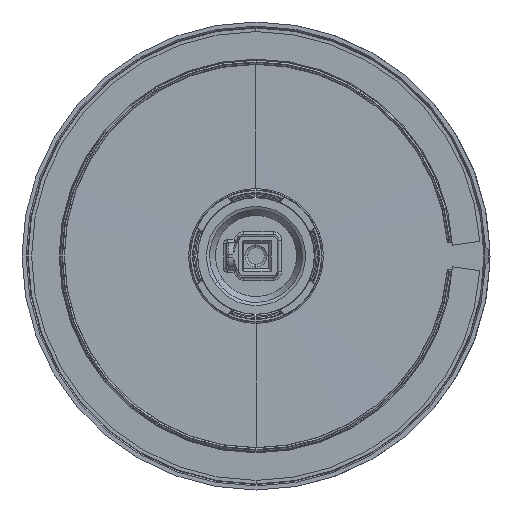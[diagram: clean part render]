
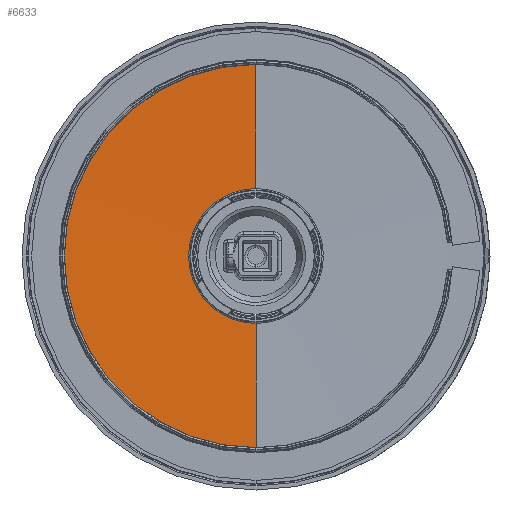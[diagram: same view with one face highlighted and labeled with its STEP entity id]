
A CAD part, left-side view. The second image highlights one B-rep face of the part: STEP entity #6633.
In plain terms, the highlighted spherical face has radius 3997 mm.
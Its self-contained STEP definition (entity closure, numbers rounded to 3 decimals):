
#203 = VERTEX_POINT ( 'NONE', #1111 ) ;
#1111 = CARTESIAN_POINT ( 'NONE',  ( -24.503, 0., 3.075 ) ) ;
#1152 = VERTEX_POINT ( 'NONE', #3321 ) ;
#1295 = AXIS2_PLACEMENT_3D ( 'NONE', #12126, #4476, #3607 ) ;
#1365 = ORIENTED_EDGE ( 'NONE', *, *, #10213, .F. ) ;
#1693 = CIRCLE ( 'NONE', #1295, 3997. ) ;
#2412 = ORIENTED_EDGE ( 'NONE', *, *, #8896, .T. ) ;
#2501 = VERTEX_POINT ( 'NONE', #3756 ) ;
#2743 = CARTESIAN_POINT ( 'NONE',  ( 0., 0., 3.075 ) ) ;
#2828 = DIRECTION ( 'NONE',  ( -1., 0., 0. ) ) ;
#2860 = DIRECTION ( 'NONE',  ( 0., 0., 1. ) ) ;
#3164 = CARTESIAN_POINT ( 'NONE',  ( 0., 0., 4000. ) ) ;
#3321 = CARTESIAN_POINT ( 'NONE',  ( 69.603, 0., 3.606 ) ) ;
#3607 = DIRECTION ( 'NONE',  ( 0., 0., -1. ) ) ;
#3756 = CARTESIAN_POINT ( 'NONE',  ( -69.603, 0., 3.606 ) ) ;
#3777 = DIRECTION ( 'NONE',  ( 1., 0., 0. ) ) ;
#4476 = DIRECTION ( 'NONE',  ( 0., -1., 0. ) ) ;
#4556 = CARTESIAN_POINT ( 'NONE',  ( 24.503, 0., 3.075 ) ) ;
#6232 = DIRECTION ( 'NONE',  ( -1., 0., 0. ) ) ;
#6297 = FACE_OUTER_BOUND ( 'NONE', #6873, .T. ) ;
#6557 = DIRECTION ( 'NONE',  ( 0., 0., -1. ) ) ;
#6633 = ADVANCED_FACE ( 'NONE', ( #6297 ), #11107, .F. ) ;
#6750 = CARTESIAN_POINT ( 'NONE',  ( 0., 0., 3.606 ) ) ;
#6873 = EDGE_LOOP ( 'NONE', ( #1365, #2412, #8756, #9341 ) ) ;
#7372 = DIRECTION ( 'NONE',  ( 0., 1., 0. ) ) ;
#7469 = CARTESIAN_POINT ( 'NONE',  ( 0., 0., 4000. ) ) ;
#7554 = CIRCLE ( 'NONE', #7747, 69.603 ) ;
#7747 = AXIS2_PLACEMENT_3D ( 'NONE', #6750, #2860, #3777 ) ;
#7799 = AXIS2_PLACEMENT_3D ( 'NONE', #3164, #7372, #6232 ) ;
#8250 = CIRCLE ( 'NONE', #9973, 3997. ) ;
#8542 = EDGE_CURVE ( 'NONE', #2501, #203, #1693, .T. ) ;
#8756 = ORIENTED_EDGE ( 'NONE', *, *, #8542, .T. ) ;
#8896 = EDGE_CURVE ( 'NONE', #1152, #2501, #7554, .T. ) ;
#9285 = VERTEX_POINT ( 'NONE', #4556 ) ;
#9341 = ORIENTED_EDGE ( 'NONE', *, *, #12659, .T. ) ;
#9568 = AXIS2_PLACEMENT_3D ( 'NONE', #2743, #6557, #10588 ) ;
#9973 = AXIS2_PLACEMENT_3D ( 'NONE', #7469, #11496, #2828 ) ;
#10213 = EDGE_CURVE ( 'NONE', #1152, #9285, #8250, .T. ) ;
#10588 = DIRECTION ( 'NONE',  ( 1., 0., 0. ) ) ;
#10866 = CIRCLE ( 'NONE', #9568, 24.503 ) ;
#11107 = SPHERICAL_SURFACE ( 'NONE', #7799, 3997. ) ;
#11496 = DIRECTION ( 'NONE',  ( 0., 1., 0. ) ) ;
#12126 = CARTESIAN_POINT ( 'NONE',  ( 0., 0., 4000. ) ) ;
#12659 = EDGE_CURVE ( 'NONE', #203, #9285, #10866, .T. ) ;
